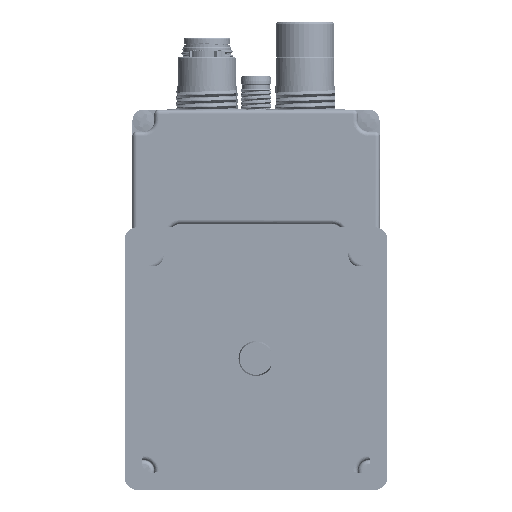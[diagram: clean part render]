
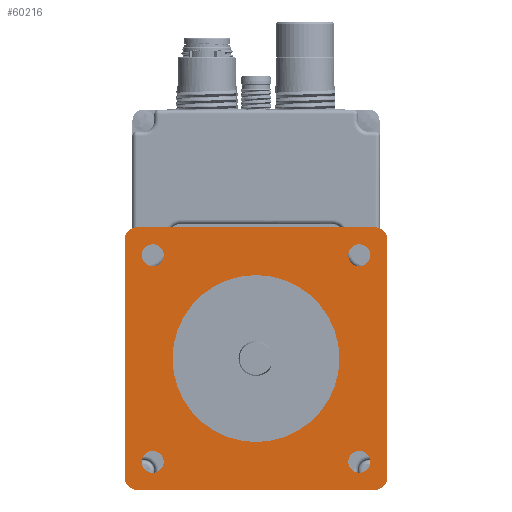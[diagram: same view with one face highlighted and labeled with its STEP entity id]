
A CAD part, front view. The second image highlights one B-rep face of the part: STEP entity #60216.
In plain terms, the highlighted planar face has unit normal (0, -1, 0).
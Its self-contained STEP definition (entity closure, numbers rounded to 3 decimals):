
#6166=CIRCLE('',#77800,2.5);
#6168=CIRCLE('',#77803,19.05);
#6176=CIRCLE('',#77827,2.5);
#6185=CIRCLE('',#77843,2.5);
#6198=CIRCLE('',#77867,2.5);
#6210=CIRCLE('',#77890,3.);
#6211=CIRCLE('',#77893,3.);
#6212=CIRCLE('',#77896,3.);
#6213=CIRCLE('',#77899,3.);
#23471=ORIENTED_EDGE('',*,*,#32214,.F.);
#23472=ORIENTED_EDGE('',*,*,#32267,.F.);
#23473=ORIENTED_EDGE('',*,*,#32246,.F.);
#23474=ORIENTED_EDGE('',*,*,#32301,.F.);
#23475=ORIENTED_EDGE('',*,*,#32212,.F.);
#23476=ORIENTED_EDGE('',*,*,#32345,.T.);
#23477=ORIENTED_EDGE('',*,*,#32344,.F.);
#23478=ORIENTED_EDGE('',*,*,#32341,.T.);
#23479=ORIENTED_EDGE('',*,*,#32340,.F.);
#23480=ORIENTED_EDGE('',*,*,#32337,.T.);
#23481=ORIENTED_EDGE('',*,*,#32336,.F.);
#23482=ORIENTED_EDGE('',*,*,#32332,.T.);
#23483=ORIENTED_EDGE('',*,*,#32347,.F.);
#32212=EDGE_CURVE('',#38253,#38253,#6166,.T.);
#32214=EDGE_CURVE('',#38255,#38255,#6168,.T.);
#32246=EDGE_CURVE('',#38279,#38279,#6176,.T.);
#32267=EDGE_CURVE('',#38295,#38295,#6185,.T.);
#32301=EDGE_CURVE('',#38321,#38321,#6198,.T.);
#32332=EDGE_CURVE('',#38341,#38342,#42785,.T.);
#32336=EDGE_CURVE('',#38341,#38343,#6210,.T.);
#32337=EDGE_CURVE('',#38344,#38343,#42789,.T.);
#32340=EDGE_CURVE('',#38344,#38345,#6211,.T.);
#32341=EDGE_CURVE('',#38346,#38345,#42792,.T.);
#32344=EDGE_CURVE('',#38346,#38347,#6212,.T.);
#32345=EDGE_CURVE('',#38348,#38347,#42795,.T.);
#32347=EDGE_CURVE('',#38348,#38342,#6213,.T.);
#38253=VERTEX_POINT('',#147856);
#38255=VERTEX_POINT('',#147861);
#38279=VERTEX_POINT('',#147933);
#38295=VERTEX_POINT('',#147977);
#38321=VERTEX_POINT('',#148048);
#38341=VERTEX_POINT('',#148109);
#38342=VERTEX_POINT('',#148110);
#38343=VERTEX_POINT('',#148115);
#38344=VERTEX_POINT('',#148119);
#38345=VERTEX_POINT('',#148123);
#38346=VERTEX_POINT('',#148127);
#38347=VERTEX_POINT('',#148131);
#38348=VERTEX_POINT('',#148135);
#42785=LINE('',#148108,#47220);
#42789=LINE('',#148118,#47224);
#42792=LINE('',#148126,#47227);
#42795=LINE('',#148134,#47230);
#47220=VECTOR('',#90989,1000.);
#47224=VECTOR('',#90999,1000.);
#47227=VECTOR('',#91008,1000.);
#47230=VECTOR('',#91017,1000.);
#51213=EDGE_LOOP('',(#23471));
#51214=EDGE_LOOP('',(#23472));
#51215=EDGE_LOOP('',(#23473));
#51216=EDGE_LOOP('',(#23474));
#51217=EDGE_LOOP('',(#23475));
#51218=EDGE_LOOP('',(#23476,#23477,#23478,#23479,#23480,#23481,#23482,#23483));
#55213=FACE_BOUND('',#51213,.T.);
#55214=FACE_BOUND('',#51214,.T.);
#55215=FACE_BOUND('',#51215,.T.);
#55216=FACE_BOUND('',#51216,.T.);
#55217=FACE_BOUND('',#51217,.T.);
#55218=FACE_BOUND('',#51218,.T.);
#56887=PLANE('',#77900);
#60216=ADVANCED_FACE('',(#55213,#55214,#55215,#55216,#55217,#55218),#56887,
 .F.);
#77800=AXIS2_PLACEMENT_3D('',#147855,#90735,#90736);
#77803=AXIS2_PLACEMENT_3D('',#147860,#90741,#90742);
#77827=AXIS2_PLACEMENT_3D('',#147932,#90813,#90814);
#77843=AXIS2_PLACEMENT_3D('',#147976,#90857,#90858);
#77867=AXIS2_PLACEMENT_3D('',#148047,#90926,#90927);
#77890=AXIS2_PLACEMENT_3D('',#148116,#90995,#90996);
#77893=AXIS2_PLACEMENT_3D('',#148124,#91004,#91005);
#77896=AXIS2_PLACEMENT_3D('',#148132,#91013,#91014);
#77899=AXIS2_PLACEMENT_3D('',#148138,#91021,#91022);
#77900=AXIS2_PLACEMENT_3D('',#148139,#91023,#91024);
#90735=DIRECTION('',(0.,-1.,0.));
#90736=DIRECTION('',(1.,0.,0.));
#90741=DIRECTION('',(0.,-1.,0.));
#90742=DIRECTION('',(1.,0.,0.));
#90813=DIRECTION('',(0.,-1.,0.));
#90814=DIRECTION('',(1.,0.,0.));
#90857=DIRECTION('',(0.,-1.,0.));
#90858=DIRECTION('',(1.,0.,0.));
#90926=DIRECTION('',(0.,-1.,0.));
#90927=DIRECTION('',(1.,0.,0.));
#90989=DIRECTION('',(1.,0.,0.));
#90995=DIRECTION('',(0.,1.,0.));
#90996=DIRECTION('',(0.,0.,-1.));
#90999=DIRECTION('',(0.,0.,-1.));
#91004=DIRECTION('',(0.,1.,0.));
#91005=DIRECTION('',(-1.,0.,0.));
#91008=DIRECTION('',(-1.,0.,0.));
#91013=DIRECTION('',(0.,1.,0.));
#91014=DIRECTION('',(0.,0.,1.));
#91017=DIRECTION('',(0.,0.,1.));
#91021=DIRECTION('',(0.,1.,0.));
#91022=DIRECTION('',(1.,0.,0.));
#91023=DIRECTION('',(0.,1.,0.));
#91024=DIRECTION('',(1.,0.,0.));
#147855=CARTESIAN_POINT('',(23.57,0.,-23.57));
#147856=CARTESIAN_POINT('',(26.07,0.,-23.57));
#147860=CARTESIAN_POINT('',(0.,0.,0.));
#147861=CARTESIAN_POINT('',(19.05,0.,0.));
#147932=CARTESIAN_POINT('',(-23.57,0.,23.57));
#147933=CARTESIAN_POINT('',(-21.07,0.,23.57));
#147976=CARTESIAN_POINT('',(23.57,0.,23.57));
#147977=CARTESIAN_POINT('',(26.07,0.,23.57));
#148047=CARTESIAN_POINT('',(-23.57,0.,-23.57));
#148048=CARTESIAN_POINT('',(-21.07,0.,-23.57));
#148108=CARTESIAN_POINT('',(-27.,0.,-30.));
#148109=CARTESIAN_POINT('',(-27.,0.,-30.));
#148110=CARTESIAN_POINT('',(27.,0.,-30.));
#148115=CARTESIAN_POINT('',(-30.,0.,-27.));
#148116=CARTESIAN_POINT('',(-27.,0.,-27.));
#148118=CARTESIAN_POINT('',(-30.,0.,27.));
#148119=CARTESIAN_POINT('',(-30.,0.,27.));
#148123=CARTESIAN_POINT('',(-27.,0.,30.));
#148124=CARTESIAN_POINT('',(-27.,0.,27.));
#148126=CARTESIAN_POINT('',(27.,0.,30.));
#148127=CARTESIAN_POINT('',(27.,0.,30.));
#148131=CARTESIAN_POINT('',(30.,0.,27.));
#148132=CARTESIAN_POINT('',(27.,0.,27.));
#148134=CARTESIAN_POINT('',(30.,0.,-27.));
#148135=CARTESIAN_POINT('',(30.,0.,-27.));
#148138=CARTESIAN_POINT('',(27.,0.,-27.));
#148139=CARTESIAN_POINT('',(0.,0.,0.));
